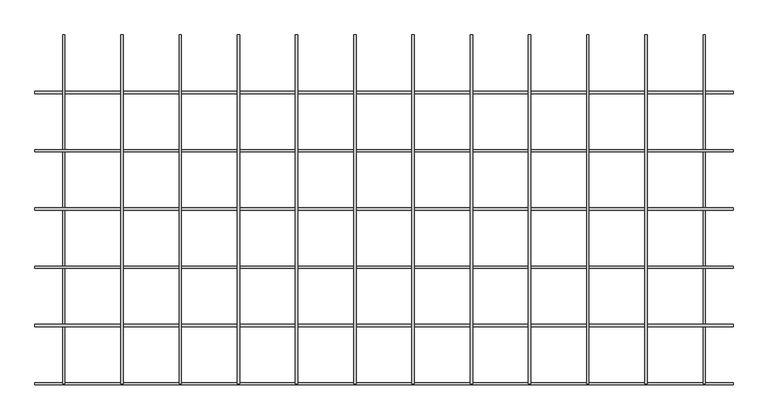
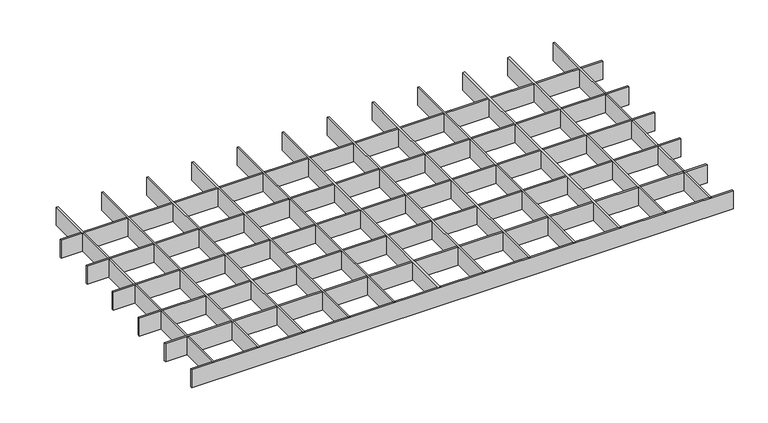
"""IFC4 building model written with IfcOpenShell, lengths in millimetres: proxy geometry, durlum_GEO_panel : durlum_GEO_4."""

from ifc_helpers import new_model, si_unit, origin, origin_with_axes, place, context, project, spatial, polyline, outline, extrude, source, transform, mapped, element, save


def generic_models_8915e19e(model_context):
    return source(origin(), model_context, "Body", "SweptSolid", [
        extrude(outline(polyline([(448.0, 299.5), (452.0, 299.5), (452.0, -299.5), (448.0, -299.5), (448.0, 299.5)])), origin_with_axes(), (0.0, 0.0, 1.0), 42.0),
        extrude(outline(polyline([(348.0, 299.5), (352.0, 299.5), (352.0, -299.5), (348.0, -299.5), (348.0, 299.5)])), origin_with_axes(), (0.0, 0.0, 1.0), 42.0),
        extrude(outline(polyline([(248.0, 299.5), (252.0, 299.5), (252.0, -299.5), (248.0, -299.5), (248.0, 299.5)])), origin_with_axes(), (0.0, 0.0, 1.0), 42.0),
        extrude(outline(polyline([(148.0, 299.5), (152.0, 299.5), (152.0, -299.5), (148.0, -299.5), (148.0, 299.5)])), origin_with_axes(), (0.0, 0.0, 1.0), 42.0),
        extrude(outline(polyline([(48.0, 299.5), (52.0, 299.5), (52.0, -299.5), (48.0, -299.5), (48.0, 299.5)])), origin_with_axes(), (0.0, 0.0, 1.0), 42.0),
        extrude(outline(polyline([(-52.0, 299.5), (-48.0, 299.5), (-48.0, -299.5), (-52.0, -299.5), (-52.0, 299.5)])), origin_with_axes(), (0.0, 0.0, 1.0), 42.0),
        extrude(outline(polyline([(-152.0, 299.5), (-148.0, 299.5), (-148.0, -299.5), (-152.0, -299.5), (-152.0, 299.5)])), origin_with_axes(), (0.0, 0.0, 1.0), 42.0),
        extrude(outline(polyline([(-252.0, 299.5), (-248.0, 299.5), (-248.0, -299.5), (-252.0, -299.5), (-252.0, 299.5)])), origin_with_axes(), (0.0, 0.0, 1.0), 42.0),
        extrude(outline(polyline([(-352.0, 299.5), (-348.0, 299.5), (-348.0, -299.5), (-352.0, -299.5), (-352.0, 299.5)])), origin_with_axes(), (0.0, 0.0, 1.0), 42.0),
        extrude(outline(polyline([(-452.0, 299.5), (-448.0, 299.5), (-448.0, -299.5), (-452.0, -299.5), (-452.0, 299.5)])), origin_with_axes(), (0.0, 0.0, 1.0), 42.0),
        extrude(outline(polyline([(599.5, -197.5), (599.5, -201.5), (-599.5, -201.5), (-599.5, -197.5), (599.5, -197.5)])), origin_with_axes(), (0.0, 0.0, 1.0), 42.0),
        extrude(outline(polyline([(599.5, -97.5), (599.5, -101.5), (-599.5, -101.5), (-599.5, -97.5), (599.5, -97.5)])), origin_with_axes(), (0.0, 0.0, 1.0), 42.0),
        extrude(outline(polyline([(599.5, 2.5), (599.5, -1.5), (-599.5, -1.5), (-599.5, 2.5), (599.5, 2.5)])), origin_with_axes(), (0.0, 0.0, 1.0), 42.0),
        extrude(outline(polyline([(599.5, 102.5), (599.5, 98.5), (-599.5, 98.5), (-599.5, 102.5), (599.5, 102.5)])), origin_with_axes(), (0.0, 0.0, 1.0), 42.0),
        extrude(outline(polyline([(548.0, 299.5), (552.0, 299.5), (552.0, -299.5), (548.0, -299.5), (548.0, 299.5)])), origin_with_axes(), (0.0, 0.0, 1.0), 42.0),
        extrude(outline(polyline([(-552.0, 299.5), (-548.0, 299.5), (-548.0, -299.5), (-552.0, -299.5), (-552.0, 299.5)])), origin_with_axes(), (0.0, 0.0, 1.0), 42.0),
        extrude(outline(polyline([(599.5, -297.5), (599.5, -301.5), (-599.5, -301.5), (-599.5, -297.5), (599.5, -297.5)])), origin_with_axes(), (0.0, 0.0, 1.0), 42.0),
        extrude(outline(polyline([(599.5, 202.5), (599.5, 198.5), (-599.5, 198.5), (-599.5, 202.5), (599.5, 202.5)])), origin_with_axes(), (0.0, 0.0, 1.0), 42.0),
    ])


if __name__ == "__main__":
    model = new_model("IFC4")
    model_context = context("Model", 3, world=origin())
    ifc_project = project(units=[si_unit("LENGTHUNIT", "METRE", prefix="MILLI")], contexts=[model_context])
    site = spatial("IfcSite", under=ifc_project)
    building = spatial("IfcBuilding", under=site)
    placement = place(None, origin())
    generic_models_shape = generic_models_8915e19e(model_context)
    element("IfcBuildingElementProxy", 1, Name="durlum_GEO_panel : durlum_GEO_4", ObjectType="durlum_GEO_panel : durlum_GEO_4", at=placement, inside=building, context=model_context, shape_type="MappedRepresentation", body=[
        mapped(generic_models_shape, transform((0.0, 0.0, 0.0), x_axis=(1.0, 0.0, 0.0), y_axis=(0.0, 1.0, 0.0), z_axis=(0.0, 0.0, 1.0))),
    ])
    save(model, "model.ifc")
